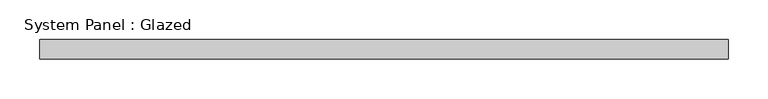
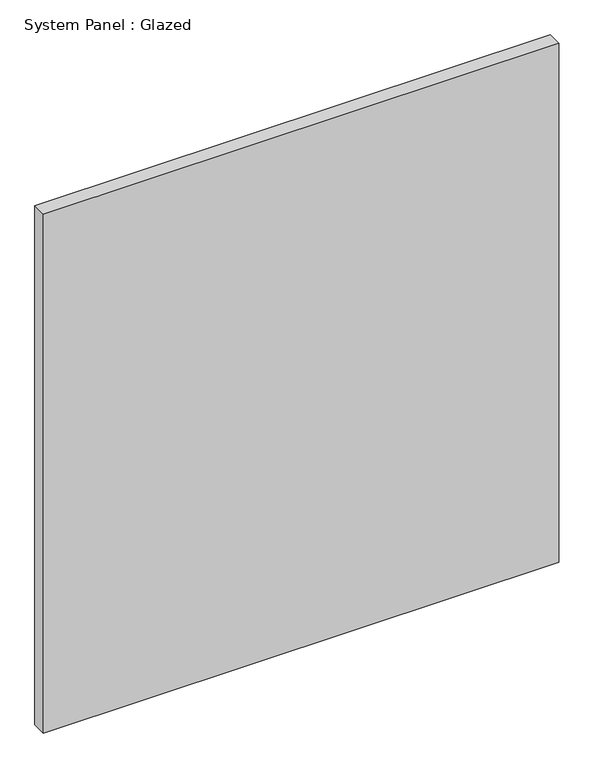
"""IFC4 building model written with IfcOpenShell, lengths in millimetres: plate geometry, System Panel : Glazed."""

from ifc_helpers import new_model, si_unit, origin, origin_with_axes, place, context, project, spatial, polyline, outline, extrude, source, transform, mapped, element, save


def system_panel_glazed_8e65953c(model_context):
    return source(origin(), model_context, "Body", "SweptSolid", [
        extrude(outline(polyline([(434.9959168, -72.5), (-434.9959168, -72.5), (-434.9959168, -47.5), (434.9959168, -47.5), (434.9959168, -72.5)])), origin_with_axes(), (0.0, 0.0, 1.0), 926.3515371),
    ])


if __name__ == "__main__":
    model = new_model("IFC4")
    model_context = context("Model", 3, world=origin())
    ifc_project = project(units=[si_unit("LENGTHUNIT", "METRE", prefix="MILLI")], contexts=[model_context])
    site = spatial("IfcSite", under=ifc_project)
    building = spatial("IfcBuilding", under=site)
    placement = place(None, origin())
    system_panel_glazed_shape = system_panel_glazed_8e65953c(model_context)
    element("IfcPlate", 1, ObjectType="System Panel : Glazed", at=placement, inside=building, context=model_context, shape_type="MappedRepresentation", body=[
        mapped(system_panel_glazed_shape, transform((0.0, 0.0, 0.0), x_axis=(1.0, 0.0, 0.0), y_axis=(0.0, 1.0, 0.0), z_axis=(0.0, 0.0, 1.0))),
    ])
    save(model, "model.ifc")
